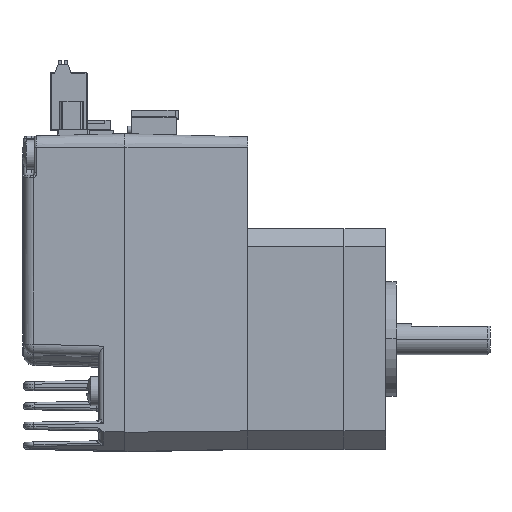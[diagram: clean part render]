
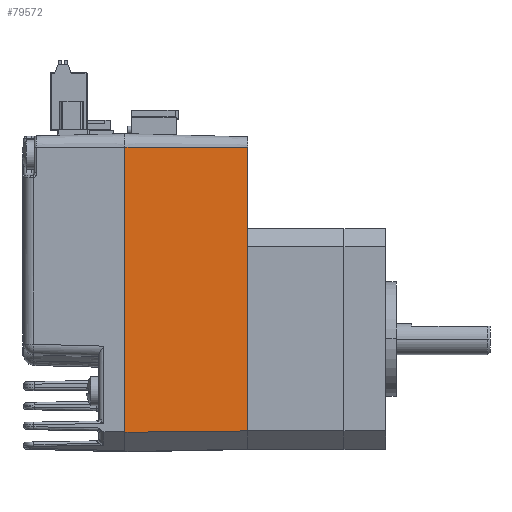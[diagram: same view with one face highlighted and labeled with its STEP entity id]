
A CAD part, top view. The second image highlights one B-rep face of the part: STEP entity #79572.
In plain terms, the highlighted planar face has unit normal (0.026, 0, 1) as drawn and (0, -0.026, 1) by its records, which use the part's own axes.
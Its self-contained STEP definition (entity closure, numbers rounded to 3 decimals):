
#7940 = DIRECTION ( 'NONE',  ( 0.011, -1., -0.026 ) ) ;
#8317 = CARTESIAN_POINT ( 'NONE',  ( -17.65, 0., 21.15 ) ) ;
#15427 = ORIENTED_EDGE ( 'NONE', *, *, #84969, .F. ) ;
#21655 = VERTEX_POINT ( 'NONE', #85176 ) ;
#22046 = FACE_OUTER_BOUND ( 'NONE', #43549, .T. ) ;
#23290 = EDGE_CURVE ( 'NONE', #143853, #89055, #99481, .T. ) ;
#25741 = LINE ( 'NONE', #146548, #124915 ) ;
#29970 = LINE ( 'NONE', #59693, #141813 ) ;
#31148 = DIRECTION ( 'NONE',  ( 1., 0., 0. ) ) ;
#36772 = ORIENTED_EDGE ( 'NONE', *, *, #138587, .F. ) ;
#40181 = DIRECTION ( 'NONE',  ( 0., -1., -0.026 ) ) ;
#43549 = EDGE_LOOP ( 'NONE', ( #15427, #96909, #52473, #36772 ) ) ;
#48831 = CARTESIAN_POINT ( 'NONE',  ( -17.65, 23.5, 21.765 ) ) ;
#50782 = CARTESIAN_POINT ( 'NONE',  ( -17.65, 0., 21.15 ) ) ;
#52473 = ORIENTED_EDGE ( 'NONE', *, *, #23290, .T. ) ;
#59693 = CARTESIAN_POINT ( 'NONE',  ( 36.75, 0., 21.15 ) ) ;
#66100 = VECTOR ( 'NONE', #70498, 1000. ) ;
#70498 = DIRECTION ( 'NONE',  ( 1., 0., 0. ) ) ;
#79572 = ADVANCED_FACE ( 'NONE', ( #22046 ), #87058, .T. ) ;
#81401 = VECTOR ( 'NONE', #31148, 1000. ) ;
#84915 = DIRECTION ( 'NONE',  ( 0., -1., -0.026 ) ) ;
#84969 = EDGE_CURVE ( 'NONE', #21655, #116094, #123703, .T. ) ;
#85176 = CARTESIAN_POINT ( 'NONE',  ( -17.905, 23.5, 21.765 ) ) ;
#87058 = PLANE ( 'NONE',  #102445 ) ;
#88169 = CARTESIAN_POINT ( 'NONE',  ( -17.65, 0., 21.15 ) ) ;
#89055 = VERTEX_POINT ( 'NONE', #110570 ) ;
#96909 = ORIENTED_EDGE ( 'NONE', *, *, #107660, .T. ) ;
#99481 = LINE ( 'NONE', #88169, #81401 ) ;
#102445 = AXIS2_PLACEMENT_3D ( 'NONE', #50782, #132920, #40181 ) ;
#107660 = EDGE_CURVE ( 'NONE', #21655, #143853, #25741, .T. ) ;
#110570 = CARTESIAN_POINT ( 'NONE',  ( 36.75, 0., 21.15 ) ) ;
#116094 = VERTEX_POINT ( 'NONE', #135287 ) ;
#123703 = LINE ( 'NONE', #48831, #66100 ) ;
#124915 = VECTOR ( 'NONE', #7940, 1000. ) ;
#132920 = DIRECTION ( 'NONE',  ( 0., -0.026, 1. ) ) ;
#135287 = CARTESIAN_POINT ( 'NONE',  ( 36.75, 23.5, 21.765 ) ) ;
#138587 = EDGE_CURVE ( 'NONE', #116094, #89055, #29970, .T. ) ;
#141813 = VECTOR ( 'NONE', #84915, 1000. ) ;
#143853 = VERTEX_POINT ( 'NONE', #8317 ) ;
#146548 = CARTESIAN_POINT ( 'NONE',  ( -17.65, 0., 21.15 ) ) ;
